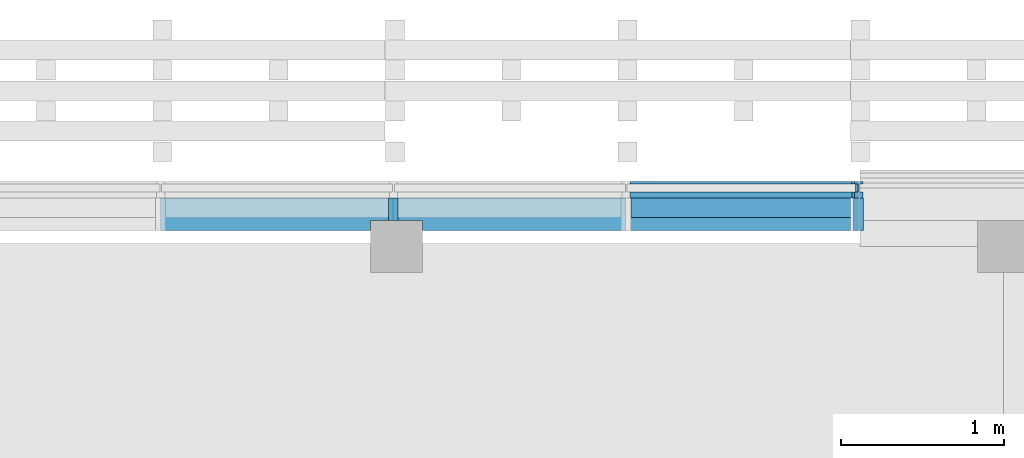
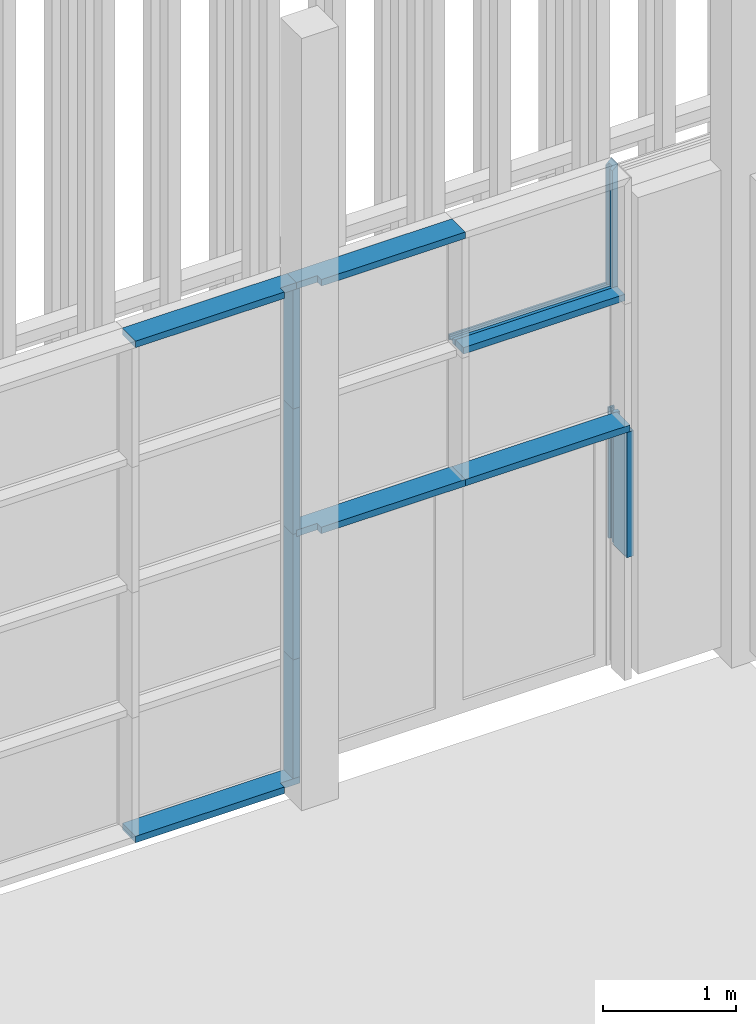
# One storey, part 92 of 260: 14 members, 2 elements without a shape of their own.
"""IFC2X3 building model written with IfcOpenShell, lengths in millimetres."""

import ifcopenshell
import ifcopenshell.guid

model = None  # the IFC model being written
_history = None  # IfcOwnerHistory: only IFC2X3 demands one
_inside = {}  # id of a spatial element -> (the spatial element, [elements in it])
_under = {}  # id of a project, library or spatial element -> (it, [spatial elements below it])
_declared = {}  # id of a project -> (the project, [libraries it declares])
_typed = {}  # id of a type object -> (the type object, [elements of that type])
_made_of = {}  # id of a material, layer set ... -> (it, [elements and type objects made of it])


def new_model(schema):
    """Start an empty IFC model of exactly this schema.

    Asked for "IFC4X3", IfcOpenShell would pick the latest addendum, in which some entities
    have other attributes; the version numbers below select the first issue.
    IFC2X3 requires an IfcOwnerHistory on every rooted entity: one is made here for all.
    """
    global model, _history
    if schema == "IFC4X3":
        model = ifcopenshell.file(schema_version=(4, 3, 0, 0))
    else:
        model = ifcopenshell.file(schema=schema)
    _inside.clear()
    _under.clear()
    _declared.clear()
    _typed.clear()
    _made_of.clear()
    _history = None
    if model.schema == "IFC2X3":
        org = make("IfcOrganization", Name="unknown")
        user = make(
            "IfcPersonAndOrganization",
            ThePerson=make("IfcPerson", FamilyName="unknown"),
            TheOrganization=org,
        )
        app = make(
            "IfcApplication",
            ApplicationDeveloper=org,
            Version="unknown",
            ApplicationFullName="unknown",
            ApplicationIdentifier="unknown",
        )
        _history = make(
            "IfcOwnerHistory",
            OwningUser=user,
            OwningApplication=app,
            ChangeAction="ADDED",
            CreationDate=0,
        )
    return model


def make(cls, **values):
    """One entity of the class cls with the attributes given. An attribute that is None is left unset."""
    return model.create_entity(
        cls, **{name: value for name, value in values.items() if value is not None}
    )


def entity(cls, *values):
    """Any entity or typed value of the class cls, its attributes in the order of the schema. None: left unset."""
    e = model.create_entity(cls)
    for i, value in enumerate(values):
        if value is not None:
            e[i] = value
    return e


def rooted(cls, **values):
    """An entity with a GlobalId (a new one), such as an element, a storey or a relation."""
    return make(cls, GlobalId=ifcopenshell.guid.new(), OwnerHistory=_history, **values)


def si_unit(unit_type, name, prefix=None):
    """IfcSIUnit, for example si_unit("LENGTHUNIT", "METRE", prefix="MILLI")."""
    return make("IfcSIUnit", UnitType=unit_type, Prefix=prefix, Name=name)


def converted_unit(unit_type, name, factor, base, dimensions=None, offset=None):
    """IfcConversionBasedUnit, such as the inch: factor (a typed value) times the base unit."""
    return make(
        "IfcConversionBasedUnit"
        if offset is None
        else "IfcConversionBasedUnitWithOffset",
        ConversionOffset=offset,
        Dimensions=None
        if dimensions is None
        else entity("IfcDimensionalExponents", *dimensions),
        UnitType=unit_type,
        Name=name,
        ConversionFactor=make(
            "IfcMeasureWithUnit", ValueComponent=factor, UnitComponent=base
        ),
    )


def derived_unit(unit_type, elements):
    """IfcDerivedUnit: a product of units, each with its exponent."""
    return make(
        "IfcDerivedUnit",
        Elements=[
            make("IfcDerivedUnitElement", Unit=unit, Exponent=power)
            for unit, power in elements
        ],
        UnitType=unit_type,
    )


def money_unit(currency):
    """IfcMonetaryUnit."""
    return make("IfcMonetaryUnit", Currency=currency)


def assignment(units):
    """IfcUnitAssignment: the units of a project."""
    return None if units is None else make("IfcUnitAssignment", Units=units)


def point(xyz):
    """IfcCartesianPoint."""
    return None if xyz is None else make("IfcCartesianPoint", Coordinates=xyz)


def direction(xyz):
    """IfcDirection."""
    return None if xyz is None else make("IfcDirection", DirectionRatios=xyz)


def frame(location, z_axis=None, x_axis=None):
    """IfcAxis2Placement3D, a coordinate frame: its origin and axes. An axis left out is left unset."""
    return make(
        "IfcAxis2Placement3D",
        Location=point(location),
        Axis=direction(z_axis),
        RefDirection=direction(x_axis),
    )


def origin_with_axes():
    """The frame at (0, 0, 0) with the z axis (0, 0, 1) and the x axis (1, 0, 0) written out."""
    return frame((0.0, 0.0, 0.0), z_axis=(0.0, 0.0, 1.0), x_axis=(1.0, 0.0, 0.0))


def place(relative_to, where):
    """IfcLocalPlacement: puts the frame where relative to a parent placement (None: the world)."""
    return make(
        "IfcLocalPlacement", PlacementRelTo=relative_to, RelativePlacement=where
    )


def context(
    kind, dimensions, precision=None, world=None, true_north=None, identifier=None
):
    """IfcGeometricRepresentationContext, for example the 3D "Model" context."""
    return make(
        "IfcGeometricRepresentationContext",
        ContextIdentifier=identifier,
        ContextType=kind,
        CoordinateSpaceDimension=dimensions,
        Precision=precision,
        WorldCoordinateSystem=world,
        TrueNorth=true_north,
    )


def subcontext(parent, identifier, kind, view, scale=None):
    """IfcGeometricRepresentationSubContext, for example "Body" below "Model"."""
    return make(
        "IfcGeometricRepresentationSubContext",
        ContextIdentifier=identifier,
        ContextType=kind,
        ParentContext=parent,
        TargetScale=scale,
        TargetView=view,
    )


def project(units=None, contexts=None):
    """IfcProject with its units and contexts."""
    return rooted(
        "IfcProject",
        Name="project",
        RepresentationContexts=contexts,
        UnitsInContext=assignment(units),
    )


def spatial(cls, under=None, at=None, **own):
    """A site, building, storey or space (cls), placed at a placement, below another one or the project."""
    s = rooted(cls, ObjectPlacement=at, **own)
    if under is not None:
        _under.setdefault(under.id(), (under, []))[1].append(s)
    return s


def faces_of(points, faces, orient=None, outer=None):
    """IfcFace entities. A face is a list of loops; a loop is a list of indices into points, from 0.

    orient and outer hold one flag for each loop. By default every Orientation is true, the
    first loop of a face is its IfcFaceOuterBound and the others are IfcFaceBound.
    """
    made = []
    for i, loops in enumerate(faces):
        bounds = []
        for j, loop in enumerate(loops):
            is_outer = j == 0 if outer is None else outer[i][j]
            bounds.append(
                make(
                    "IfcFaceOuterBound" if is_outer else "IfcFaceBound",
                    Bound=make("IfcPolyLoop", Polygon=[points[k] for k in loop]),
                    Orientation=True if orient is None else orient[i][j],
                )
            )
        made.append(make("IfcFace", Bounds=bounds))
    return made


def faceted_brep(points, faces, orient=None, outer=None, voids=None):
    """IfcFacetedBrep: a solid bounded by flat faces; with voids (closed shells), ...WithVoids."""
    shared = [point(p) for p in points]
    hull = make("IfcClosedShell", CfsFaces=faces_of(shared, faces, orient, outer))
    if voids is None:
        return make("IfcFacetedBrep", Outer=hull)
    return make(
        "IfcFacetedBrepWithVoids",
        Outer=hull,
        Voids=[
            make(cls, CfsFaces=faces_of(shared, fs, o, b)) for cls, fs, o, b in voids
        ],
    )


def shape(context_of_items, identifier, shape_type, items):
    """IfcShapeRepresentation: the items that make up one representation, for example the "Body"."""
    return make(
        "IfcShapeRepresentation",
        ContextOfItems=context_of_items,
        RepresentationIdentifier=identifier,
        RepresentationType=shape_type,
        Items=items,
    )


def material(Name=None, Category=None):
    """IfcMaterial."""
    return make("IfcMaterial", Name=Name, Category=Category)


def made_of(thing, what):
    """Note that an element or type object is made of a material, layer set ...; save() writes the relation."""
    if what is not None:
        _made_of.setdefault(what.id(), (what, []))[1].append(thing)
    return thing


def type_object(cls, material=None, **own):
    """A type object (cls), such as IfcWallType, which elements share."""
    return made_of(rooted(cls, **own), material)


def element(
    cls,
    number,
    at=None,
    inside=None,
    cuts=None,
    type_object=None,
    material=None,
    context=None,
    identifier="Body",
    shape_type=None,
    held_by="IfcProductDefinitionShape",
    body=None,
    shapes=None,
    **own,
):
    """One element of the class cls, such as IfcWall. Its Tag is "e" and its number.

    at: its placement. inside: the storey or other place that contains it. cuts: it is an
    opening in that element (IfcRelVoidsElement). A single representation is given by context,
    identifier, shape_type and body (its items); several are given by shapes. held_by: the class
    of the entity that holds the representations. save() writes the other relations.
    """
    e = rooted(cls, Tag="e%d" % number, ObjectPlacement=at, **own)
    if body is not None:
        shapes = [shape(context, identifier, shape_type, body)]
    if shapes is not None:
        e.Representation = make(held_by, Representations=shapes)
    if inside is not None:
        _inside.setdefault(inside.id(), (inside, []))[1].append(e)
    if cuts is not None:
        rooted(
            "IfcRelVoidsElement", RelatingBuildingElement=cuts, RelatedOpeningElement=e
        )
    if type_object is not None:
        _typed.setdefault(type_object.id(), (type_object, []))[1].append(e)
    return made_of(e, material)


def aggregate(whole, parts):
    """IfcRelAggregates: a whole, such as a stair, and the parts it consists of."""
    return rooted("IfcRelAggregates", RelatingObject=whole, RelatedObjects=parts)


def save(model, path):
    """Write the relations noted so far, then the file.

    IfcRelAggregates (storeys below a building ...), IfcRelContainedInSpatialStructure (elements
    in a storey), IfcRelDefinesByType, IfcRelAssociatesMaterial and IfcRelDeclares: one each for
    every whole, place, type object, material and project.
    """
    for whole, parts in _under.values():
        aggregate(whole, parts)
    for where, things in _inside.values():
        rooted(
            "IfcRelContainedInSpatialStructure",
            RelatedElements=things,
            RelatingStructure=where,
        )
    for kind, things in _typed.values():
        rooted("IfcRelDefinesByType", RelatedObjects=things, RelatingType=kind)
    for what, things in _made_of.values():
        rooted("IfcRelAssociatesMaterial", RelatedObjects=things, RelatingMaterial=what)
    for by, libraries in _declared.values():
        rooted("IfcRelDeclares", RelatingContext=by, RelatedDefinitions=libraries)
    model.write(path)


model = new_model("IFC2X3")

# Units and contexts
model_context = context("Model", 3, precision=0.01, world=origin_with_axes(), true_north=direction((0.0, 1.0)))
body_context = subcontext(model_context, "Body", "Model", "MODEL_VIEW")
ifc_project = project(units=[si_unit("LENGTHUNIT", "METRE", prefix="MILLI"), si_unit("AREAUNIT", "SQUARE_METRE"), si_unit("VOLUMEUNIT", "CUBIC_METRE"), converted_unit("PLANEANGLEUNIT", "DEGREE", entity("IfcPlaneAngleMeasure", 0.0174532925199), si_unit("PLANEANGLEUNIT", "RADIAN"), dimensions=[0, 0, 0, 0, 0, 0, 0]), money_unit("EUR"), converted_unit("TIMEUNIT", "Year", entity("IfcTimeMeasure", 31556926.0), si_unit("TIMEUNIT", "SECOND"), dimensions=[0, 0, 1, 0, 0, 0, 0]), si_unit("MASSUNIT", "GRAM", prefix="KILO"), si_unit("THERMODYNAMICTEMPERATUREUNIT", "DEGREE_CELSIUS"), si_unit("LUMINOUSINTENSITYUNIT", "LUMEN"), si_unit("ENERGYUNIT", "JOULE", prefix="MEGA"), derived_unit("THERMALCONDUCTANCEUNIT", [(si_unit("POWERUNIT", "WATT"), 1), (si_unit("LENGTHUNIT", "METRE"), -1), (si_unit("THERMODYNAMICTEMPERATUREUNIT", "KELVIN"), -1)]), derived_unit("SPECIFICHEATCAPACITYUNIT", [(si_unit("ENERGYUNIT", "JOULE"), 1), (si_unit("MASSUNIT", "GRAM", prefix="KILO"), -1), (si_unit("THERMODYNAMICTEMPERATUREUNIT", "KELVIN"), -1)]), derived_unit("MASSDENSITYUNIT", [(si_unit("MASSUNIT", "GRAM", prefix="KILO"), 1), (si_unit("VOLUMEUNIT", "CUBIC_METRE"), -1)])], contexts=[model_context])

# Site, building, storey
site_placement = place(None, origin_with_axes())
site = spatial("IfcSite", under=ifc_project, at=site_placement, Name="Kolde pst 67a", CompositionType="ELEMENT")
building_placement = place(site_placement, origin_with_axes())
building = spatial("IfcBuilding", under=site, at=building_placement, Name="Riigigümnaasium", CompositionType="ELEMENT")
storey_placement = place(building_placement, origin_with_axes())
storey = spatial("IfcBuildingStorey", under=building, at=storey_placement, Name="1. korrus", CompositionType="ELEMENT", Elevation=0.0)

# Curtain wall, members
curtain_wall_type = type_object("IfcCurtainWallType", Name="Curtain Wall Type", PredefinedType="NOTDEFINED")
curtain_wall_1_placement = place(storey_placement, frame((10366.0828546, 84639.9999608, 0.0), z_axis=(0.0, 0.0, 1.0), x_axis=(1.0, 0.0, 0.0)))
curtain_wall_1 = element("IfcCurtainWall", 1, at=curtain_wall_1_placement, inside=storey, type_object=curtain_wall_type, Name="KLAASFASSAAD")
ifc_material_1 = material(Name="_METALL - alumiinium")
member_type_1 = type_object("IfcMemberType", Name="Transom Frame 50 x 100", PredefinedType="MEMBER")
member_1_placement = place(curtain_wall_1_placement, frame((23595.0, 0.0, 3450.0), z_axis=(1.0, 0.0, 0.0), x_axis=(0.0, 0.0, 1.0)))
member_1 = element("IfcMember", 2, at=member_1_placement, type_object=member_type_1, material=ifc_material_1, Name="RF RAAM HOR-018", ObjectType="MEMBER", context=body_context, shape_type="Brep", body=[
    faceted_brep([(-5.0, 24.0, 1430.0), (-5.0, -24.0, 1430.0), (-25.0, -24.0, 1430.0), (-25.0, -40.0, 1430.0), (25.0, -40.0, 1430.0), (25.0, -24.0, 1430.0), (5.0, -24.0, 1430.0), (5.0, 24.0, 1430.0), (25.0, 24.0, 1430.0), (25.0, 60.0, 1430.0), (-25.0, 60.0, 1430.0), (-25.0, 24.0, 1430.0), (-5.0, 24.0, 25.0), (-5.0, -24.0, 25.0), (-25.0, -24.0, 25.0), (-25.0, -40.0, 25.0), (25.0, -40.0, 25.0), (25.0, -24.0, 25.0), (5.0, -24.0, 25.0), (5.0, 24.0, 25.0), (25.0, 24.0, 25.0), (25.0, 60.0, 25.0), (-25.0, 60.0, 25.0), (-25.0, 24.0, 25.0)], [[[0, 1, 2, 3, 4, 5, 6, 7, 8, 9, 10, 11]], [[0, 12, 13, 1]], [[1, 13, 14, 2]], [[14, 15, 3, 2]], [[4, 3, 15, 16]], [[17, 5, 4, 16]], [[5, 17, 18, 6]], [[7, 6, 18, 19]], [[8, 7, 19, 20]], [[8, 20, 21, 9]], [[10, 9, 21, 22]], [[11, 10, 22, 23]], [[11, 23, 12, 0]], [[13, 12, 23, 22, 21, 20, 19, 18, 17, 16, 15, 14]]]),
])
member_type_2 = type_object("IfcMemberType", Name="Boundary Frame 50 x 100", PredefinedType="MEMBER")
member_2_placement = place(curtain_wall_1_placement, frame((25033.9174616, 0.0, 3450.0), z_axis=(0.0, 0.0, 1.0), x_axis=(-1.0, 0.0, 0.0)))
member_2 = element("IfcMember", 3, at=member_2_placement, type_object=member_type_2, material=ifc_material_1, Name="RF RAAM SERV-098", ObjectType="MEMBER", context=body_context, shape_type="Brep", body=[
    faceted_brep([(30.0, 24.0, 1120.0), (50.0, 24.0, 1100.0), (50.0, 60.0, 1100.0), (0.0, 60.0, 1150.0), (0.0, -40.0, 1150.0), (50.0, -40.0, 1100.0), (50.0, -24.0, 1100.0), (30.0, -24.0, 1120.0), (30.0, 24.0, 0.0), (50.0, 24.0, 0.0), (50.0, 60.0, 0.0), (0.0, 60.0, 0.0), (0.0, -40.0, 0.0), (50.0, -40.0, 0.0), (50.0, -24.0, 0.0), (30.0, -24.0, 0.0)], [[[0, 1, 2, 3, 4, 5, 6, 7]], [[0, 8, 9, 1]], [[9, 10, 2, 1]], [[10, 11, 3, 2]], [[11, 12, 4, 3]], [[12, 13, 5, 4]], [[6, 5, 13, 14]], [[14, 15, 7, 6]], [[7, 15, 8, 0]], [[8, 15, 14, 13, 12, 11, 10, 9]]]),
])
member_type_3 = type_object("IfcMemberType", Name="Mullion Frame 50 x 100", PredefinedType="MEMBER")
member_3_placement = place(curtain_wall_1_placement, frame((25025.0, 0.0, 1150.0), z_axis=(0.0, 0.0, 1.0), x_axis=(-1.0, 0.0, 0.0)))
member_3 = element("IfcMember", 4, at=member_3_placement, type_object=member_type_3, material=ifc_material_1, Name="RF RAAM VERT-242", ObjectType="MEMBER", context=body_context, shape_type="Brep", body=[
    faceted_brep([(-5.0, 24.0, 1175.0), (-5.0, -24.0, 1175.0), (-25.0, -24.0, 1175.0), (-25.0, -40.0, 1175.0), (25.0, -40.0, 1175.0), (25.0, -24.0, 1175.0), (5.0, -24.0, 1175.0), (5.0, 24.0, 1175.0), (25.0, 24.0, 1175.0), (25.0, 60.0, 1175.0), (-25.0, 60.0, 1175.0), (-25.0, 24.0, 1175.0), (-5.0, 24.0, -25.0), (-5.0, -24.0, -25.0), (-25.0, -24.0, -25.0), (-25.0, -40.0, -25.0), (25.0, -40.0, -25.0), (25.0, -24.0, -25.0), (5.0, -24.0, -25.0), (5.0, 24.0, -25.0), (25.0, 24.0, -25.0), (25.0, 60.0, -25.0), (-25.0, 60.0, -25.0), (-25.0, 24.0, -25.0)], [[[0, 1, 2, 3, 4, 5, 6, 7, 8, 9, 10, 11]], [[0, 12, 13, 1]], [[1, 13, 14, 2]], [[14, 15, 3, 2]], [[3, 15, 16, 4]], [[17, 5, 4, 16]], [[5, 17, 18, 6]], [[7, 6, 18, 19]], [[8, 7, 19, 20]], [[8, 20, 21, 9]], [[9, 21, 22, 10]], [[11, 10, 22, 23]], [[11, 23, 12, 0]], [[13, 12, 23, 22, 21, 20, 19, 18, 17, 16, 15, 14]]]),
])
aggregate(curtain_wall_1, [member_1, member_3, member_2])

curtain_wall_2_placement = place(storey_placement, frame((7516.12873899, 84579.9999608, 0.0), z_axis=(0.0, 0.0, 1.0), x_axis=(1.0, 0.0, 0.0)))
curtain_wall_2 = element("IfcCurtainWall", 5, at=curtain_wall_2_placement, inside=storey, type_object=curtain_wall_type, Name="Klaasfassaadi puitkarkass")
ifc_material_2 = material(Name="_KANDETARIND - liimpuit vastavalt EK osale")
member_type_4 = type_object("IfcMemberType", Name="Transom Frame 60 x 120", PredefinedType="MEMBER")
member_4_placement = place(curtain_wall_2_placement, frame((26443.6284674, 0.0, 3450.0), z_axis=(1.0, 0.0, 0.0), x_axis=(0.0, 0.0, 1.0)))
member_4 = element("IfcMember", 6, at=member_4_placement, type_object=member_type_4, material=ifc_material_2, Name="RF RAAM HOR-515", ObjectType="MEMBER", context=body_context, shape_type="Brep", body=[
    faceted_brep([(30.0, 0.0, 30.0), (30.0, 120.0, 30.0), (30.0, 120.0, 1430.0), (30.0, 0.0, 1430.0), (-30.0, 0.0, 30.0), (-30.0, 120.0, 30.0), (-30.0, 120.0, 1430.0), (-30.0, 0.0, 1430.0)], [[[0, 1, 2, 3]], [[1, 0, 4, 5]], [[1, 5, 6, 2]], [[2, 6, 7, 3]], [[4, 0, 3, 7]], [[5, 4, 7, 6]]]),
])
member_type_5 = type_object("IfcMemberType", Name="Mullion Frame 60 x 200", PredefinedType="MEMBER")
member_5_placement = place(curtain_wall_2_placement, frame((25013.6284674, 0.0, 0.0), z_axis=(0.0, 0.0, 1.0), x_axis=(-1.0, 0.0, 0.0)))
member_5 = element("IfcMember", 7, at=member_5_placement, type_object=member_type_5, material=ifc_material_2, Name="RF RAAM VERT-473", ObjectType="MEMBER", context=body_context, shape_type="Brep", body=[
    faceted_brep([(30.0, 140.019126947, 1150.0), (-30.0, 140.019126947, 1150.0), (-30.0, 0.0, 1150.0), (30.0, 0.0, 1150.0), (-30.0, 140.019126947, 60.0), (30.0, 140.019126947, 60.0), (-30.0, 0.0, 60.0), (30.0, 0.0, 60.0)], [[[0, 1, 2, 3]], [[4, 1, 0, 5]], [[1, 4, 6, 2]], [[2, 6, 7, 3]], [[5, 0, 3, 7]], [[4, 5, 7, 6]]]),
])
member_6_placement = place(curtain_wall_2_placement, frame((25013.6284674, 0.0, 1150.0), z_axis=(0.0, 0.0, 1.0), x_axis=(-1.0, 0.0, 0.0)))
member_6 = element("IfcMember", 8, at=member_6_placement, type_object=member_type_5, material=ifc_material_2, Name="RF RAAM VERT-495", ObjectType="MEMBER", context=body_context, shape_type="Brep", body=[
    faceted_brep([(0.0, 140.019126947, 1120.0), (-30.0, 140.019126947, 1120.0), (-30.0, 0.0, 1120.0), (0.0, 0.0, 1120.0), (-30.0, 140.019126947, 0.0), (0.0, 140.019126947, 1150.0), (30.0, 140.019126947, 1150.0), (30.0, 140.019126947, 0.0), (-30.0, 0.0, 0.0), (30.0, 0.0, 0.0), (30.0, 0.0, 1150.0), (0.0, 0.0, 1150.0)], [[[0, 1, 2, 3]], [[4, 1, 0, 5, 6, 7]], [[1, 4, 8, 2]], [[3, 2, 8, 9, 10, 11]], [[5, 0, 3, 11]], [[6, 5, 11, 10]], [[7, 6, 10, 9]], [[4, 7, 9, 8]]]),
])
member_7_placement = place(curtain_wall_2_placement, frame((27873.6284674, 0.0, 1150.0), z_axis=(0.0, 0.0, 1.0), x_axis=(-1.0, 0.0, 0.0)))
member_7 = element("IfcMember", 9, at=member_7_placement, type_object=member_type_5, material=ifc_material_2, Name="RF RAAM VERT-622", ObjectType="MEMBER", context=body_context, shape_type="Brep", body=[
    faceted_brep([(30.0, 200.0, -30.0), (30.0, 200.0, 1120.0), (30.0, 0.0, 1120.0), (30.0, 0.0, -30.0), (-30.0, 200.0, -30.0), (-30.0, 200.0, 1120.0), (-30.0, 0.0, 1120.0), (-30.0, 0.0, -30.0)], [[[0, 1, 2, 3]], [[4, 5, 1, 0]], [[1, 5, 6, 2]], [[3, 2, 6, 7]], [[0, 3, 7, 4]], [[7, 6, 5, 4]]]),
])
member_8_placement = place(curtain_wall_2_placement, frame((25013.6284674, 0.0, 2300.0), z_axis=(0.0, 0.0, 1.0), x_axis=(-1.0, 0.0, 0.0)))
member_8 = element("IfcMember", 10, at=member_8_placement, type_object=member_type_5, material=ifc_material_2, Name="RF RAAM VERT-517", ObjectType="MEMBER", context=body_context, shape_type="Brep", body=[
    faceted_brep([(30.0, 140.019126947, 1150.0), (-30.0, 140.019126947, 1150.0), (-30.0, 0.0, 1150.0), (30.0, 0.0, 1150.0), (-30.0, 140.019126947, 30.0), (30.0, 140.019126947, 0.0), (0.0, 140.019126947, 0.0), (0.0, 140.019126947, 30.0), (-30.0, 0.0, 30.0), (0.0, 0.0, 30.0), (0.0, 0.0, 0.0), (30.0, 0.0, 0.0)], [[[0, 1, 2, 3]], [[4, 1, 0, 5, 6, 7]], [[1, 4, 8, 2]], [[8, 9, 10, 11, 3, 2]], [[5, 0, 3, 11]], [[6, 5, 11, 10]], [[7, 6, 10, 9]], [[4, 7, 9, 8]]]),
])
member_9_placement = place(curtain_wall_2_placement, frame((25013.6284674, 0.0, 3450.0), z_axis=(0.0, 0.0, 1.0), x_axis=(-1.0, 0.0, 0.0)))
member_9 = element("IfcMember", 11, at=member_9_placement, type_object=member_type_5, material=ifc_material_2, Name="RF RAAM VERT-688", ObjectType="MEMBER", context=body_context, shape_type="Brep", body=[
    faceted_brep([(30.0, 140.019126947, 1090.0), (-30.0, 140.019126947, 1090.0), (-30.0, 0.0, 1090.0), (30.0, 0.0, 1090.0), (-30.0, 140.019126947, 0.0), (30.0, 140.019126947, 0.0), (-30.0, 0.0, 0.0), (30.0, 0.0, 0.0)], [[[0, 1, 2, 3]], [[4, 1, 0, 5]], [[1, 4, 6, 2]], [[6, 7, 3, 2]], [[5, 0, 3, 7]], [[4, 5, 7, 6]]]),
])
member_type_6 = type_object("IfcMemberType", Name="Boundary Frame 60 x 200", PredefinedType="MEMBER")
member_10_placement = place(curtain_wall_2_placement, frame((23583.6284674, 0.0, 0.0), z_axis=(1.0, 0.0, 0.0), x_axis=(0.0, 0.0, 1.0)))
member_10 = element("IfcMember", 12, at=member_10_placement, type_object=member_type_6, material=ifc_material_2, Name="RF RAAM SERV-427", ObjectType="MEMBER", context=body_context, shape_type="Brep", body=[
    faceted_brep([(60.0, 200.0, 1290.2427936), (60.0, 140.019126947, 1290.2427936), (60.0, 140.019126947, 1460.0), (60.0, 0.0, 1460.0), (60.0, 0.0, 0.0), (60.0, 200.0, 0.0), (0.0, 200.0, 1290.2427936), (0.0, 140.019126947, 1290.2427936), (0.0, 140.019126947, 1460.0), (0.0, 0.0, 1460.0), (0.0, 0.0, 0.0), (0.0, 200.0, 0.0)], [[[0, 1, 2, 3, 4, 5]], [[1, 0, 6, 7]], [[8, 2, 1, 7]], [[2, 8, 9, 3]], [[10, 4, 3, 9]], [[11, 5, 4, 10]], [[6, 0, 5, 11]], [[7, 6, 11, 10, 9, 8]]]),
])
member_11_placement = place(curtain_wall_2_placement, frame((25013.6284674, 0.0, 2300.0), z_axis=(1.0, 0.0, 0.0), x_axis=(0.0, 0.0, 1.0)))
member_11 = element("IfcMember", 13, at=member_11_placement, type_object=member_type_6, material=ifc_material_2, Name="RF RAAM HOR-491", ObjectType="MEMBER", context=body_context, shape_type="Brep", body=[
    faceted_brep([(30.0, 140.019126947, 180.242793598), (30.0, 200.0, 180.242793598), (30.0, 200.0, 1430.0), (30.0, 0.0, 1430.0), (30.0, 0.0, 0.0), (30.0, 140.019126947, 0.0), (-30.0, 140.019126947, 180.242793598), (-30.0, 200.0, 180.242793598), (-30.0, 200.0, 1430.0), (-30.0, 0.0, 1430.0), (-30.0, 0.0, 0.0), (-30.0, 140.019126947, 0.0)], [[[0, 1, 2, 3, 4, 5]], [[1, 0, 6, 7]], [[1, 7, 8, 2]], [[3, 2, 8, 9]], [[10, 4, 3, 9]], [[11, 5, 4, 10]], [[0, 5, 11, 6]], [[6, 11, 10, 9, 8, 7]]]),
])
member_12_placement = place(curtain_wall_2_placement, frame((26443.6284674, 0.0, 2300.0), z_axis=(1.0, 0.0, 0.0), x_axis=(0.0, 0.0, 1.0)))
member_12 = element("IfcMember", 14, at=member_12_placement, type_object=member_type_6, material=ifc_material_2, Name="RF RAAM HOR-492", ObjectType="MEMBER", context=body_context, shape_type="Brep", body=[
    faceted_brep([(30.0, 200.0, 0.0), (30.0, 200.0, 1430.0), (30.0, 0.0, 1430.0), (30.0, 0.0, 0.0), (-30.0, 200.0, 0.0), (-30.0, 200.0, 1430.0), (-30.0, 0.0, 1430.0), (-30.0, 0.0, 0.0)], [[[0, 1, 2, 3]], [[4, 5, 1, 0]], [[1, 5, 6, 2]], [[3, 2, 6, 7]], [[0, 3, 7, 4]], [[7, 6, 5, 4]]]),
])
member_13_placement = place(curtain_wall_2_placement, frame((23583.6284674, 0.0, 4600.0), z_axis=(1.0, 0.0, 0.0), x_axis=(0.0, 0.0, 1.0)))
member_13 = element("IfcMember", 15, at=member_13_placement, type_object=member_type_6, material=ifc_material_2, Name="RF RAAM SERV-438", ObjectType="MEMBER", context=body_context, shape_type="Brep", body=[
    faceted_brep([(0.0, 200.0, 1290.2427936), (0.0, 140.019126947, 1290.2427936), (0.0, 140.019126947, 1430.0), (0.0, 0.0, 1430.0), (0.0, 0.0, 0.0), (0.0, 200.0, 0.0), (-60.0, 200.0, 1290.2427936), (-60.0, 140.019126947, 1290.2427936), (-60.0, 140.019126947, 1430.0), (-60.0, 0.0, 1430.0), (-60.0, 0.0, 0.0), (-60.0, 200.0, 0.0)], [[[0, 1, 2, 3, 4, 5]], [[1, 0, 6, 7]], [[8, 2, 1, 7]], [[2, 8, 9, 3]], [[9, 10, 4, 3]], [[10, 11, 5, 4]], [[6, 0, 5, 11]], [[7, 6, 11, 10, 9, 8]]]),
])
member_14_placement = place(curtain_wall_2_placement, frame((25013.6284674, 0.0, 4600.0), z_axis=(1.0, 0.0, 0.0), x_axis=(0.0, 0.0, 1.0)))
member_14 = element("IfcMember", 16, at=member_14_placement, type_object=member_type_6, material=ifc_material_2, Name="RF RAAM SERV-437", ObjectType="MEMBER", context=body_context, shape_type="Brep", body=[
    faceted_brep([(0.0, 140.019126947, 180.242793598), (0.0, 200.0, 180.242793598), (0.0, 200.0, 1430.0), (0.0, 0.0, 1430.0), (0.0, 0.0, 0.0), (0.0, 140.019126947, 0.0), (-60.0, 140.019126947, 180.242793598), (-60.0, 200.0, 180.242793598), (-60.0, 200.0, 1430.0), (-60.0, 0.0, 1430.0), (-60.0, 0.0, 0.0), (-60.0, 140.019126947, 0.0)], [[[0, 1, 2, 3, 4, 5]], [[1, 0, 6, 7]], [[1, 7, 8, 2]], [[2, 8, 9, 3]], [[9, 10, 4, 3]], [[11, 5, 4, 10]], [[0, 5, 11, 6]], [[6, 11, 10, 9, 8, 7]]]),
])
aggregate(curtain_wall_2, [member_10, member_5, member_6, member_7, member_11, member_8, member_12, member_4, member_9, member_13, member_14])

save(model, "model.ifc")
